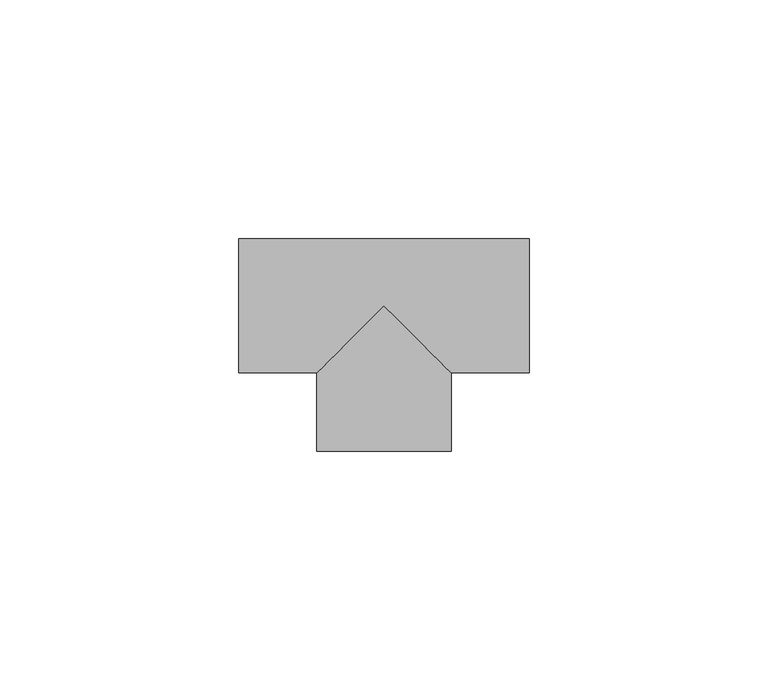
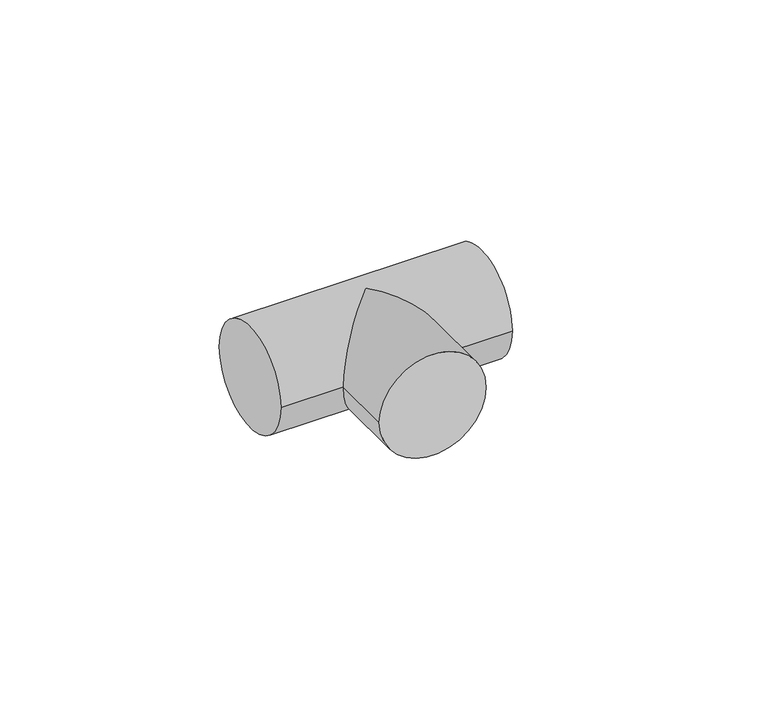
"""IFC4 building model written with IfcOpenShell, lengths in millimetres: pipe fitting geometry, M_Te - PVC - Serie 40 : Estándar."""

from ifc_helpers import new_model, si_unit, frame, origin, place, context, project, spatial, circle_curve, ellipse_curve, source, transform, mapped, element, save
from ifc_brep_helpers import plane_surface, cylinder_surface, advanced_brep


def pipe_fitting_ab418b84(model_context):
    return source(origin(), model_context, "Body", "AdvancedBrep", [
        advanced_brep(
        [(-30.4601562, -14.0434219, 0.0), (-30.4601562, 14.0434219, 0.0), (30.4601563, -14.0434219, 0.0), (30.4601563, 14.0434219, 0.0), (-14.0434219, -14.0434219, 0.0), (0.0, 0.0, 14.0434219), (14.0434219, -14.0434219, 0.0), (0.0, 0.0, -14.0434219), (-14.0434219, -30.4601563, 0.0), (14.0434219, -30.4601563, 0.0)],
        [
            (0, 1, circle_curve(frame((-30.4601562, 0.0, 0.0), z_axis=(-1.0, 0.0, 0.0), x_axis=(0.0, 1.0, 0.0)), 14.0434219)),
            (1, 0, circle_curve(frame((-30.4601562, 0.0, 0.0), z_axis=(-1.0, 0.0, 0.0), x_axis=(0.0, 1.0, 0.0)), 14.0434219)),
            (2, 3, circle_curve(frame((30.4601563, 0.0, 0.0), z_axis=(1.0, 0.0, 0.0), x_axis=(0.0, 1.0, 0.0)), 14.0434219)),
            (3, 2, circle_curve(frame((30.4601563, 0.0, 0.0), z_axis=(1.0, 0.0, 0.0), x_axis=(0.0, 1.0, 0.0)), 14.0434219)),
            (0, 4),
            (4, 5, ellipse_curve(frame((0.0, 0.0, 0.0), z_axis=(-0.7071067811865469, 0.7071067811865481, 0.0), x_axis=(-0.707106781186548, -0.7071067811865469, 0.0)), 19.8603977, 14.0434219)),
            (5, 6, ellipse_curve(frame((0.0, 0.0, 0.0), z_axis=(0.707106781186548, 0.7071067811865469, 0.0), x_axis=(-0.707106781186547, 0.707106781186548, 0.0)), 19.8603977, 14.0434219)),
            (6, 2),
            (3, 1),
            (6, 7, ellipse_curve(frame((0.0, 0.0, 0.0), z_axis=(0.707106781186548, 0.7071067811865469, 0.0), x_axis=(-0.707106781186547, 0.707106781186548, 0.0)), 19.8603977, 14.0434219)),
            (7, 4, ellipse_curve(frame((0.0, 0.0, 0.0), z_axis=(-0.7071067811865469, 0.7071067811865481, 0.0), x_axis=(-0.707106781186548, -0.7071067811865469, 0.0)), 19.8603977, 14.0434219)),
            (8, 9, circle_curve(frame((0.0, -30.4601563, 0.0), z_axis=(0.0, -1.0, 0.0), x_axis=(1.0, 0.0, 0.0)), 14.0434219)),
            (9, 8, circle_curve(frame((0.0, -30.4601563, 0.0), z_axis=(0.0, -1.0, 0.0), x_axis=(1.0, 0.0, 0.0)), 14.0434219)),
            (9, 6),
            (4, 8),
        ],
        [
            plane_surface(frame((-30.4601562, 0.0, 0.0), z_axis=(-1.0, 0.0, 0.0), x_axis=(0.0, 0.0, 1.0))),
            plane_surface(frame((30.4601563, 0.0, 0.0), z_axis=(1.0, 0.0, 0.0), x_axis=(0.0, 0.0, 1.0))),
            cylinder_surface(frame((-30.4601562, 0.0, 0.0), z_axis=(-1.0, 0.0, 0.0), x_axis=(0.0, 1.0, 0.0)), 14.0434219),
            plane_surface(frame((0.0, -30.4601563, 0.0), z_axis=(0.0, -1.0, 0.0), x_axis=(0.0, 0.0, 1.0))),
            cylinder_surface(frame((0.0, 0.0, 0.0), z_axis=(0.0, 1.0, 0.0), x_axis=(1.0, 0.0, 0.0)), 14.0434219),
        ],
        [
            (0, [[1, 2]]),
            (1, [[3, 4]]),
            (2, [[-1, 5, 6, 7, 8, -4, 9]]),
            (2, [[-2, -9, -3, -8, 10, 11, -5]]),
            (3, [[12, 13]]),
            (4, [[-13, 14, -7, -6, 15]]),
            (4, [[-12, -15, -11, -10, -14]]),
        ],
    ),
    ])


if __name__ == "__main__":
    model = new_model("IFC4")
    model_context = context("Model", 3, world=origin())
    ifc_project = project(units=[si_unit("LENGTHUNIT", "METRE", prefix="MILLI")], contexts=[model_context])
    site = spatial("IfcSite", under=ifc_project)
    building = spatial("IfcBuilding", under=site)
    placement = place(None, origin())
    pipe_fitting_shape = pipe_fitting_ab418b84(model_context)
    element("IfcPipeFitting", 1, ObjectType="M_Te - PVC - Serie 40 : Estándar", at=placement, inside=building, context=model_context, shape_type="MappedRepresentation", body=[
        mapped(pipe_fitting_shape, transform((0.0, 0.0, 0.0), x_axis=(1.0, 0.0, 0.0), y_axis=(0.0, 1.0, 0.0), z_axis=(0.0, 0.0, 1.0))),
    ])
    save(model, "model.ifc")
